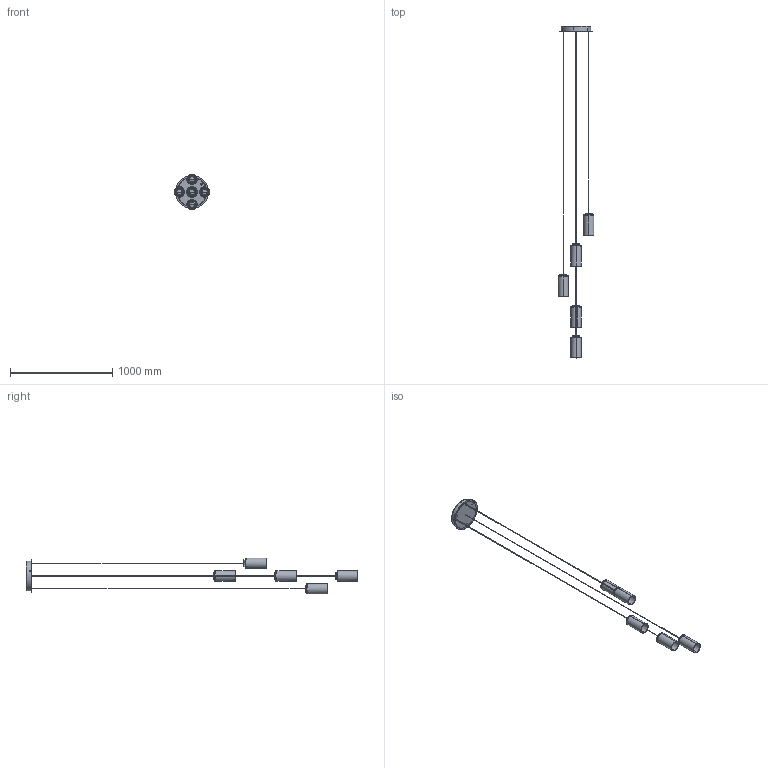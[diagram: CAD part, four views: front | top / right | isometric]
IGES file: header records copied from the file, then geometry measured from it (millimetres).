
Start section: SolidWorks IGES file using NURBS representation for surfaces
Global section: file name: C:\Users\aitor.torredeflot\Desktop\Cascada 12\3D WEB\CAscada 5\cascada 5 - tirabuzon.IGS; native system: SolidWorks 2016; preprocessor: SolidWorks 2016; author: aitor.torredeflot; date: 170712.155732; units: millimetre
Bounding box: 351 x 3254.6 x 351 mm (x, y, z)
Surface area: 1320680.3 mm2 (no closed solid volume)
Topology: 0 solids, 0 shells, 2254 faces, 17780 edges, 17768 vertices
Faces by surface type: bspline 2254
